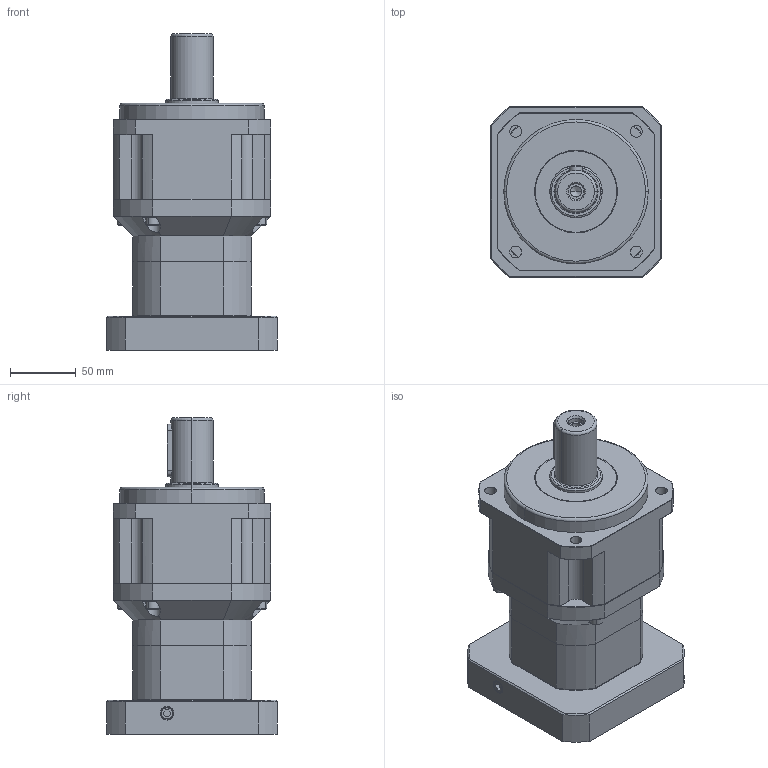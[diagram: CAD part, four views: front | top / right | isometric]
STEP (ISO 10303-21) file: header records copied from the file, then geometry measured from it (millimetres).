
FILE_DESCRIPTION (( 'STEP AP203' ), '1' );
FILE_NAME ('SB120-2-110M8-3.STEP', '2011-07-11T08:46:21', ( '1' ), ( '' ), 'SwSTEP 2.0', 'SolidWorks 2011', '' );
FILE_SCHEMA (( 'CONFIG_CONTROL_DESIGN' ));
Length unit declared in the file: millimetre
Products named in the file (1): SB120-2-110M8-3
Bounding box: 130 x 130 x 241 mm (x, y, z)
Volume: 1756690 mm3; surface area: 246772.5 mm2
Topology: 21 solids, 21 shells, 836 faces, 1976 edges, 1215 vertices
Faces by surface type: plane 371, cylinder 265, cone 148, torus 37, bspline 15
Entity records: 25177 total; most frequent: CARTESIAN_POINT 5657, DIRECTION 4229, ORIENTED_EDGE 3884, EDGE_CURVE 1942, AXIS2_PLACEMENT_3D 1593, VERTEX_POINT 1215, LINE 1043, VECTOR 1043
